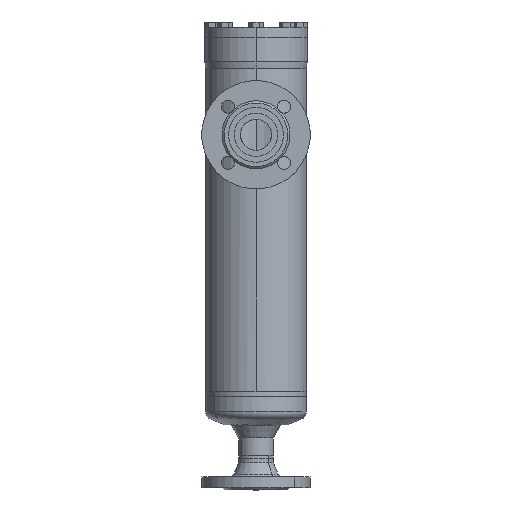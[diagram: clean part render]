
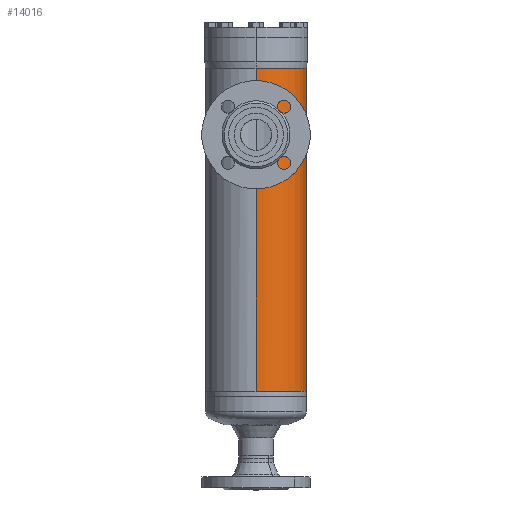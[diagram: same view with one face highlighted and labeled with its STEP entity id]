
A CAD part, top view. The second image highlights one B-rep face of the part: STEP entity #14016.
In plain terms, the highlighted cylindrical face has radius 69.85 mm (diameter 139.7 mm), a partial arc.
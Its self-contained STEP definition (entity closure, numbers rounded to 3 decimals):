
#59 = VERTEX_POINT ( 'NONE', #7381 ) ;
#285 = EDGE_CURVE ( 'NONE', #59, #1184, #7459, .T. ) ;
#434 = B_SPLINE_CURVE_WITH_KNOTS ( 'NONE', 3,
 ( #435, #436, #437, #439, #440, #441, #442, #443, #444, #445, #446, #447, #448, #449, #450, #451, #452, #453, #454, #455, #456, #457, #458, #459, #460, #461 ),
 .UNSPECIFIED., .F., .F.,
 ( 4, 2, 2, 2, 2, 2, 2, 2, 2, 2, 2, 2, 4 ),
 ( 0., 0.004, 0.006, 0.008, 0.009, 0.013, 0.015, 0.017, 0.022, 0.026, 0.028, 0.03, 0.035 ),
 .UNSPECIFIED. ) ;
#435 = CARTESIAN_POINT ( 'NONE',  ( 22., 358., 66.295 ) ) ;
#436 = CARTESIAN_POINT ( 'NONE',  ( 22., 359.464, 66.295 ) ) ;
#437 = CARTESIAN_POINT ( 'NONE',  ( 21.855, 360.902, 66.343 ) ) ;
#439 = CARTESIAN_POINT ( 'NONE',  ( 21.432, 363.021, 66.481 ) ) ;
#440 = CARTESIAN_POINT ( 'NONE',  ( 21.256, 363.721, 66.538 ) ) ;
#441 = CARTESIAN_POINT ( 'NONE',  ( 20.938, 364.761, 66.638 ) ) ;
#442 = CARTESIAN_POINT ( 'NONE',  ( 20.824, 365.107, 66.674 ) ) ;
#443 = CARTESIAN_POINT ( 'NONE',  ( 20.578, 365.79, 66.75 ) ) ;
#444 = CARTESIAN_POINT ( 'NONE',  ( 20.447, 366.127, 66.79 ) ) ;
#445 = CARTESIAN_POINT ( 'NONE',  ( 19.755, 367.789, 67.001 ) ) ;
#446 = CARTESIAN_POINT ( 'NONE',  ( 19.078, 369.05, 67.199 ) ) ;
#447 = CARTESIAN_POINT ( 'NONE',  ( 17.88, 370.838, 67.524 ) ) ;
#448 = CARTESIAN_POINT ( 'NONE',  ( 17.448, 371.42, 67.637 ) ) ;
#449 = CARTESIAN_POINT ( 'NONE',  ( 16.535, 372.53, 67.866 ) ) ;
#450 = CARTESIAN_POINT ( 'NONE',  ( 16.054, 373.059, 67.982 ) ) ;
#451 = CARTESIAN_POINT ( 'NONE',  ( 14.541, 374.57, 68.327 ) ) ;
#452 = CARTESIAN_POINT ( 'NONE',  ( 13.439, 375.478, 68.556 ) ) ;
#453 = CARTESIAN_POINT ( 'NONE',  ( 11.035, 377.087, 68.984 ) ) ;
#454 = CARTESIAN_POINT ( 'NONE',  ( 9.77, 377.764, 69.176 ) ) ;
#455 = CARTESIAN_POINT ( 'NONE',  ( 7.785, 378.589, 69.418 ) ) ;
#456 = CARTESIAN_POINT ( 'NONE',  ( 7.109, 378.832, 69.491 ) ) ;
#457 = CARTESIAN_POINT ( 'NONE',  ( 5.726, 379.254, 69.618 ) ) ;
#458 = CARTESIAN_POINT ( 'NONE',  ( 5.015, 379.433, 69.673 ) ) ;
#459 = CARTESIAN_POINT ( 'NONE',  ( 2.881, 379.859, 69.805 ) ) ;
#460 = CARTESIAN_POINT ( 'NONE',  ( 1.446, 380., 69.85 ) ) ;
#461 = CARTESIAN_POINT ( 'NONE',  ( 0., 380., 69.85 ) ) ;
#710 = CARTESIAN_POINT ( 'NONE',  ( 0., 336., 69.85 ) ) ;
#1184 = VERTEX_POINT ( 'NONE', #7795 ) ;
#1605 = CARTESIAN_POINT ( 'NONE',  ( 0., 380., 69.85 ) ) ;
#1904 = EDGE_CURVE ( 'NONE', #59, #2599, #9080, .T. ) ;
#1968 = LINE ( 'NONE', #1969, #1970 ) ;
#1969 = CARTESIAN_POINT ( 'NONE',  ( 0., 0., 69.85 ) ) ;
#1970 = VECTOR ( 'NONE', #1971, 1000. ) ;
#1971 = DIRECTION ( 'NONE',  ( 0., -1., 0. ) ) ;
#2067 = ORIENTED_EDGE ( 'NONE', *, *, #1904, .F. ) ;
#2599 = VERTEX_POINT ( 'NONE', #10606 ) ;
#2839 = EDGE_CURVE ( 'NONE', #2599, #3727, #11128, .T. ) ;
#3214 = ORIENTED_EDGE ( 'NONE', *, *, #2839, .F. ) ;
#3673 = FACE_OUTER_BOUND ( 'NONE', #13772, .T. ) ;
#3674 = CYLINDRICAL_SURFACE ( 'NONE', #3675, 69.85 ) ;
#3675 = AXIS2_PLACEMENT_3D ( 'NONE', #3676, #3677, #3678 ) ;
#3676 = CARTESIAN_POINT ( 'NONE',  ( 0., 0., 0. ) ) ;
#3677 = DIRECTION ( 'NONE',  ( 0., -1., 0. ) ) ;
#3678 = DIRECTION ( 'NONE',  ( 0., 0., -1. ) ) ;
#3727 = VERTEX_POINT ( 'NONE', #12332 ) ;
#3958 = EDGE_CURVE ( 'NONE', #5828, #3727, #12584, .T. ) ;
#4328 = ORIENTED_EDGE ( 'NONE', *, *, #3958, .T. ) ;
#4673 = VERTEX_POINT ( 'NONE', #13943 ) ;
#4849 = ORIENTED_EDGE ( 'NONE', *, *, #4908, .F. ) ;
#4908 = EDGE_CURVE ( 'NONE', #5828, #4673, #14480, .T. ) ;
#5561 = EDGE_CURVE ( 'NONE', #4673, #6465, #434, .T. ) ;
#5828 = VERTEX_POINT ( 'NONE', #710 ) ;
#5947 = ORIENTED_EDGE ( 'NONE', *, *, #5561, .F. ) ;
#6465 = VERTEX_POINT ( 'NONE', #1605 ) ;
#7381 = CARTESIAN_POINT ( 'NONE',  ( 0., 450.478, -69.85 ) ) ;
#7459 = CIRCLE ( 'NONE', #7460, 69.85 ) ;
#7460 = AXIS2_PLACEMENT_3D ( 'NONE', #7461, #7462, #7463 ) ;
#7461 = CARTESIAN_POINT ( 'NONE',  ( 0., 450.478, 0. ) ) ;
#7462 = DIRECTION ( 'NONE',  ( 0., -1., 0. ) ) ;
#7463 = DIRECTION ( 'NONE',  ( 0., 0., -1. ) ) ;
#7795 = CARTESIAN_POINT ( 'NONE',  ( 0., 450.478, 69.85 ) ) ;
#9080 = LINE ( 'NONE', #9081, #9082 ) ;
#9081 = CARTESIAN_POINT ( 'NONE',  ( 0., 0., -69.85 ) ) ;
#9082 = VECTOR ( 'NONE', #9083, 1000. ) ;
#9083 = DIRECTION ( 'NONE',  ( 0., -1., 0. ) ) ;
#10606 = CARTESIAN_POINT ( 'NONE',  ( 0., 3.522, -69.85 ) ) ;
#11128 = CIRCLE ( 'NONE', #11129, 69.85 ) ;
#11129 = AXIS2_PLACEMENT_3D ( 'NONE', #11130, #11131, #11132 ) ;
#11130 = CARTESIAN_POINT ( 'NONE',  ( 0., 3.522, 0. ) ) ;
#11131 = DIRECTION ( 'NONE',  ( 0., -1., 0. ) ) ;
#11132 = DIRECTION ( 'NONE',  ( 0., 0., -1. ) ) ;
#12332 = CARTESIAN_POINT ( 'NONE',  ( 0., 3.522, 69.85 ) ) ;
#12348 = EDGE_CURVE ( 'NONE', #1184, #6465, #1968, .T. ) ;
#12584 = LINE ( 'NONE', #12585, #12586 ) ;
#12585 = CARTESIAN_POINT ( 'NONE',  ( 0., 0., 69.85 ) ) ;
#12586 = VECTOR ( 'NONE', #12587, 1000. ) ;
#12587 = DIRECTION ( 'NONE',  ( 0., -1., 0. ) ) ;
#12727 = ORIENTED_EDGE ( 'NONE', *, *, #12348, .T. ) ;
#13248 = ORIENTED_EDGE ( 'NONE', *, *, #285, .T. ) ;
#13772 = EDGE_LOOP ( 'NONE', ( #13248, #12727, #5947, #4849, #4328, #3214, #2067 ) ) ;
#13943 = CARTESIAN_POINT ( 'NONE',  ( 22., 358., 66.295 ) ) ;
#14016 = ADVANCED_FACE ( 'NONE', ( #3673 ), #3674, .T. ) ;
#14480 = B_SPLINE_CURVE_WITH_KNOTS ( 'NONE', 3,
 ( #14481, #14482, #14483, #14484, #14485, #14488, #14489, #14490, #14491, #14492, #14493, #14494, #14495, #14496, #14497, #14498, #14499, #14500, #14501, #14502, #14503, #14506, #14507, #14508, #14509, #14510, #14511, #14512, #14513, #14514 ),
 .UNSPECIFIED., .F., .F.,
 ( 4, 2, 2, 2, 2, 2, 2, 2, 2, 2, 2, 2, 2, 2, 4 ),
 ( 0.104, 0.108, 0.11, 0.112, 0.115, 0.117, 0.121, 0.123, 0.124, 0.125, 0.13, 0.131, 0.132, 0.134, 0.138 ),
 .UNSPECIFIED. ) ;
#14481 = CARTESIAN_POINT ( 'NONE',  ( 0., 336., 69.85 ) ) ;
#14482 = CARTESIAN_POINT ( 'NONE',  ( 1.45, 336., 69.85 ) ) ;
#14483 = CARTESIAN_POINT ( 'NONE',  ( 2.884, 336.142, 69.805 ) ) ;
#14484 = CARTESIAN_POINT ( 'NONE',  ( 5.013, 336.567, 69.673 ) ) ;
#14485 = CARTESIAN_POINT ( 'NONE',  ( 5.723, 336.745, 69.619 ) ) ;
#14488 = CARTESIAN_POINT ( 'NONE',  ( 7.11, 337.168, 69.491 ) ) ;
#14489 = CARTESIAN_POINT ( 'NONE',  ( 7.788, 337.412, 69.418 ) ) ;
#14490 = CARTESIAN_POINT ( 'NONE',  ( 9.113, 337.963, 69.256 ) ) ;
#14491 = CARTESIAN_POINT ( 'NONE',  ( 9.76, 338.271, 69.168 ) ) ;
#14492 = CARTESIAN_POINT ( 'NONE',  ( 11.025, 338.948, 68.977 ) ) ;
#14493 = CARTESIAN_POINT ( 'NONE',  ( 11.644, 339.32, 68.875 ) ) ;
#14494 = CARTESIAN_POINT ( 'NONE',  ( 13.445, 340.526, 68.555 ) ) ;
#14495 = CARTESIAN_POINT ( 'NONE',  ( 14.546, 341.434, 68.326 ) ) ;
#14496 = CARTESIAN_POINT ( 'NONE',  ( 16.059, 342.946, 67.981 ) ) ;
#14497 = CARTESIAN_POINT ( 'NONE',  ( 16.54, 343.475, 67.865 ) ) ;
#14498 = CARTESIAN_POINT ( 'NONE',  ( 17.224, 344.309, 67.693 ) ) ;
#14499 = CARTESIAN_POINT ( 'NONE',  ( 17.447, 344.594, 67.636 ) ) ;
#14500 = CARTESIAN_POINT ( 'NONE',  ( 17.877, 345.172, 67.524 ) ) ;
#14501 = CARTESIAN_POINT ( 'NONE',  ( 18.084, 345.466, 67.469 ) ) ;
#14502 = CARTESIAN_POINT ( 'NONE',  ( 19.08, 346.954, 67.199 ) ) ;
#14503 = CARTESIAN_POINT ( 'NONE',  ( 19.755, 348.212, 67.001 ) ) ;
#14506 = CARTESIAN_POINT ( 'NONE',  ( 20.446, 349.871, 66.791 ) ) ;
#14507 = CARTESIAN_POINT ( 'NONE',  ( 20.577, 350.207, 66.751 ) ) ;
#14508 = CARTESIAN_POINT ( 'NONE',  ( 20.822, 350.889, 66.674 ) ) ;
#14509 = CARTESIAN_POINT ( 'NONE',  ( 20.937, 351.235, 66.638 ) ) ;
#14510 = CARTESIAN_POINT ( 'NONE',  ( 21.255, 352.277, 66.538 ) ) ;
#14511 = CARTESIAN_POINT ( 'NONE',  ( 21.431, 352.977, 66.481 ) ) ;
#14512 = CARTESIAN_POINT ( 'NONE',  ( 21.855, 355.098, 66.343 ) ) ;
#14513 = CARTESIAN_POINT ( 'NONE',  ( 22., 356.537, 66.295 ) ) ;
#14514 = CARTESIAN_POINT ( 'NONE',  ( 22., 358., 66.295 ) ) ;
